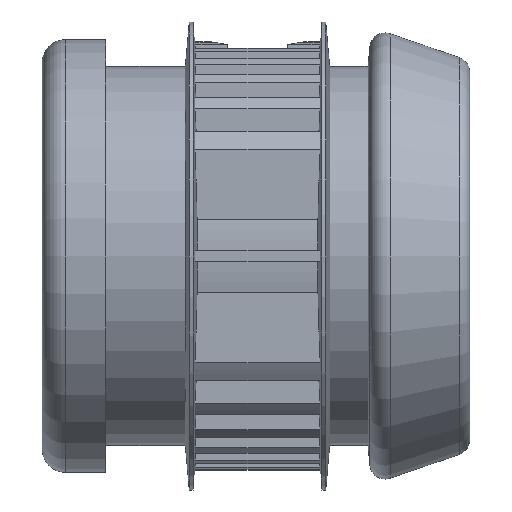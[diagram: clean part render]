
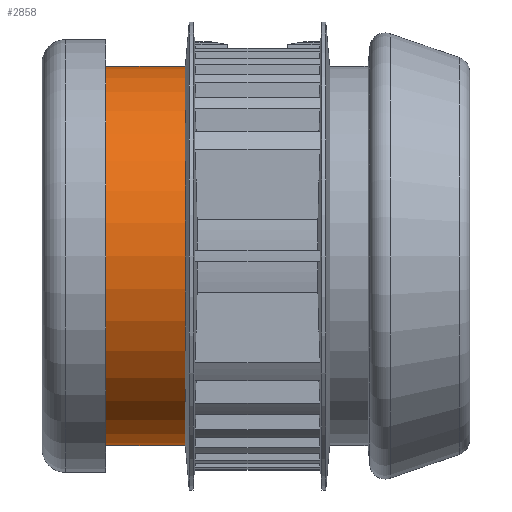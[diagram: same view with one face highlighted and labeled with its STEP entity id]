
A CAD part, front view. The second image highlights one B-rep face of the part: STEP entity #2858.
In plain terms, the highlighted cylindrical face has radius 48.6 mm (diameter 97.2 mm), a full revolution.
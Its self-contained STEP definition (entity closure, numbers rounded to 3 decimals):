
#34=FACE_BOUND($,#675,.T.);
#181=CIRCLE($,#3136,48.6);
#182=CIRCLE($,#3138,48.6);
#514=FACE_OUTER_BOUND($,#674,.T.);
#674=EDGE_LOOP($,(#2446));
#675=EDGE_LOOP($,(#2447));
#1265=VERTEX_POINT($,#4971);
#1266=VERTEX_POINT($,#4974);
#1668=EDGE_CURVE($,#1265,#1265,#181,.T.);
#1669=EDGE_CURVE($,#1266,#1266,#182,.T.);
#2446=ORIENTED_EDGE($,*,*,#1668,.T.);
#2447=ORIENTED_EDGE($,*,*,#1669,.F.);
#2562=CYLINDRICAL_SURFACE($,#3137,48.6);
#2858=ADVANCED_FACE($,(#514,#34),#2562,.T.);
#3136=AXIS2_PLACEMENT_3D($,#4972,#3822,#3823);
#3137=AXIS2_PLACEMENT_3D($,#4973,#3824,#3825);
#3138=AXIS2_PLACEMENT_3D($,#4975,#3826,#3827);
#3822=DIRECTION('center_axis',(1.,0.,0.));
#3823=DIRECTION('ref_axis',(0.,1.,0.));
#3824=DIRECTION('center_axis',(1.,0.,0.));
#3825=DIRECTION('ref_axis',(0.,1.,0.));
#3826=DIRECTION('center_axis',(1.,0.,0.));
#3827=DIRECTION('ref_axis',(0.,1.,0.));
#4971=CARTESIAN_POINT('',(16.3,48.6,0.));
#4972=CARTESIAN_POINT('Origin',(16.3,0.,0.));
#4973=CARTESIAN_POINT('Origin',(33.51,0.,0.));
#4974=CARTESIAN_POINT('',(36.72,48.6,0.));
#4975=CARTESIAN_POINT('Origin',(36.72,0.,0.));
